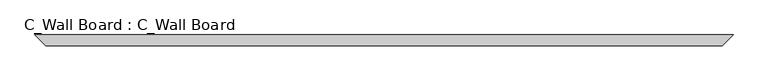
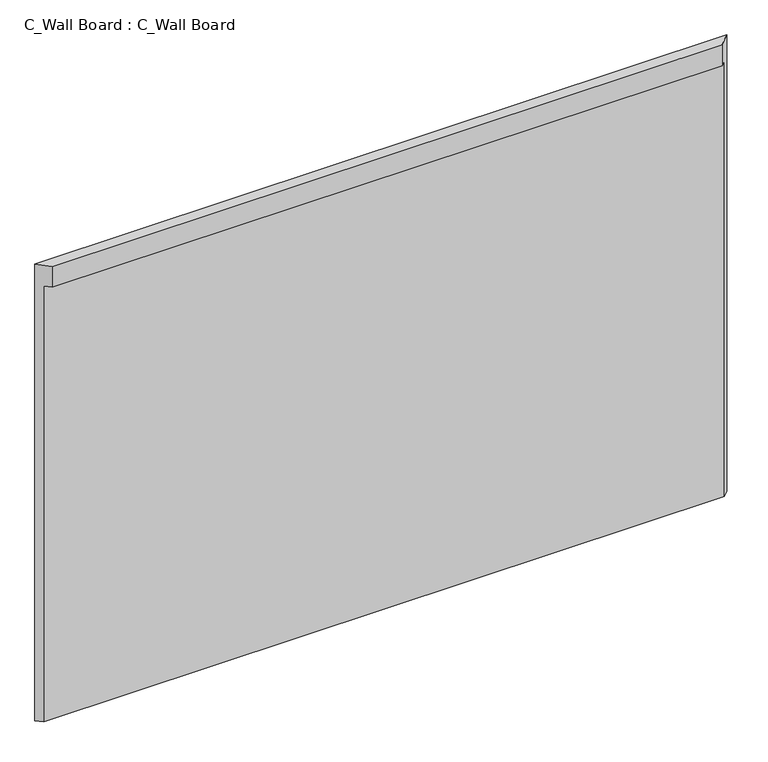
"""IFC4 building model written with IfcOpenShell, lengths in millimetres: proxy geometry, C_Wall Board : C_Wall Board."""

from ifc_helpers import new_model, si_unit, origin, place, context, project, spatial, faceted_brep, source, transform, mapped, element, save


def c_wall_board_c_wall_board_c33469f1(model_context):
    return source(origin(), model_context, "Body", "Brep", [
        faceted_brep([(1600.2, 0.0, 1117.6), (1600.2, 0.0, 0.0), (0.0, 0.0, 0.0), (0.0, 0.0, 1117.6), (1574.8, -25.4, 1117.6), (25.4, -25.4, 1117.6), (1574.8, -25.4, 1066.8), (1587.5, -12.7, 1066.8), (1587.5, -12.7, 0.0), (12.7, -12.7, 0.0), (12.7, -12.7, 1066.8), (25.4, -25.4, 1066.8)], [[[0, 1, 2, 3]], [[4, 0, 3, 5]], [[1, 0, 4, 6, 7, 8]], [[3, 2, 9, 10, 11, 5]], [[8, 7, 10, 9]], [[1, 8, 9, 2]], [[6, 4, 5, 11]], [[7, 6, 11, 10]]]),
    ])


if __name__ == "__main__":
    model = new_model("IFC4")
    model_context = context("Model", 3, world=origin())
    ifc_project = project(units=[si_unit("LENGTHUNIT", "METRE", prefix="MILLI")], contexts=[model_context])
    site = spatial("IfcSite", under=ifc_project)
    building = spatial("IfcBuilding", under=site)
    placement = place(None, origin())
    c_wall_board_c_wall_board_shape = c_wall_board_c_wall_board_c33469f1(model_context)
    element("IfcBuildingElementProxy", 1, Name="C_Wall Board : C_Wall Board", ObjectType="C_Wall Board : C_Wall Board", at=placement, inside=building, context=model_context, shape_type="MappedRepresentation", body=[
        mapped(c_wall_board_c_wall_board_shape, transform((0.0, 0.0, 0.0), x_axis=(1.0, 0.0, 0.0), y_axis=(0.0, 1.0, 0.0), z_axis=(0.0, 0.0, 1.0))),
    ])
    save(model, "model.ifc")
